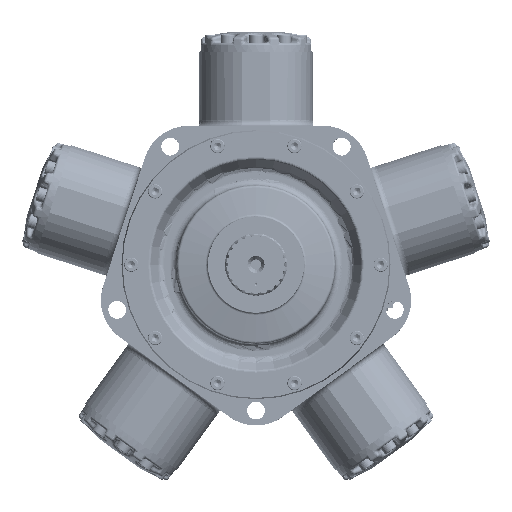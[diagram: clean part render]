
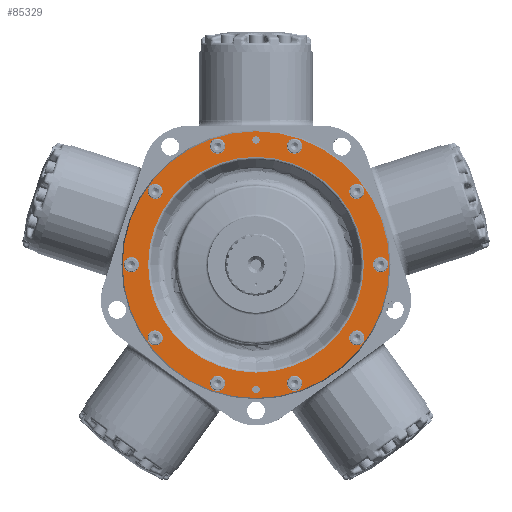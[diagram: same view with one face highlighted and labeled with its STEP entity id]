
A CAD part, top view. The second image highlights one B-rep face of the part: STEP entity #85329.
In plain terms, the highlighted planar face has unit normal (0, 0, 1).
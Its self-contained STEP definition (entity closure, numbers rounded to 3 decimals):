
#3427=FACE_BOUND('',#28082,.T.);
#3428=FACE_BOUND('',#28083,.T.);
#3429=FACE_BOUND('',#28084,.T.);
#3430=FACE_BOUND('',#28085,.T.);
#3431=FACE_BOUND('',#28086,.T.);
#3432=FACE_BOUND('',#28087,.T.);
#3433=FACE_BOUND('',#28088,.T.);
#3434=FACE_BOUND('',#28089,.T.);
#3435=FACE_BOUND('',#28090,.T.);
#3436=FACE_BOUND('',#28091,.T.);
#3437=FACE_BOUND('',#28092,.T.);
#3438=FACE_BOUND('',#28093,.T.);
#3439=FACE_BOUND('',#28094,.T.);
#22422=FACE_OUTER_BOUND('',#28081,.T.);
#28081=EDGE_LOOP('',(#75870));
#28082=EDGE_LOOP('',(#75871));
#28083=EDGE_LOOP('',(#75872));
#28084=EDGE_LOOP('',(#75873));
#28085=EDGE_LOOP('',(#75874));
#28086=EDGE_LOOP('',(#75875));
#28087=EDGE_LOOP('',(#75876));
#28088=EDGE_LOOP('',(#75877));
#28089=EDGE_LOOP('',(#75878));
#28090=EDGE_LOOP('',(#75879));
#28091=EDGE_LOOP('',(#75880));
#28092=EDGE_LOOP('',(#75881));
#28093=EDGE_LOOP('',(#75882));
#28094=EDGE_LOOP('',(#75883));
#31906=CIRCLE('',#92541,120.896);
#31975=CIRCLE('',#92731,149.491);
#31976=CIRCLE('',#92732,4.188);
#31977=CIRCLE('',#92733,4.188);
#31978=CIRCLE('',#92734,8.5);
#31979=CIRCLE('',#92735,8.5);
#31980=CIRCLE('',#92736,8.5);
#31981=CIRCLE('',#92737,8.5);
#31982=CIRCLE('',#92738,8.5);
#31983=CIRCLE('',#92739,8.5);
#31984=CIRCLE('',#92740,8.5);
#31985=CIRCLE('',#92741,8.5);
#31986=CIRCLE('',#92742,8.5);
#31987=CIRCLE('',#92743,8.5);
#38905=VERTEX_POINT('',#205416);
#39357=VERTEX_POINT('',#208858);
#39358=VERTEX_POINT('',#208860);
#39359=VERTEX_POINT('',#208862);
#39360=VERTEX_POINT('',#208864);
#39361=VERTEX_POINT('',#208866);
#39362=VERTEX_POINT('',#208868);
#39363=VERTEX_POINT('',#208870);
#39364=VERTEX_POINT('',#208872);
#39365=VERTEX_POINT('',#208874);
#39366=VERTEX_POINT('',#208876);
#39367=VERTEX_POINT('',#208878);
#39368=VERTEX_POINT('',#208880);
#39369=VERTEX_POINT('',#208882);
#50989=EDGE_CURVE('',#38905,#38905,#31906,.T.);
#51666=EDGE_CURVE('',#39357,#39357,#31975,.T.);
#51667=EDGE_CURVE('',#39358,#39358,#31976,.T.);
#51668=EDGE_CURVE('',#39359,#39359,#31977,.T.);
#51669=EDGE_CURVE('',#39360,#39360,#31978,.T.);
#51670=EDGE_CURVE('',#39361,#39361,#31979,.T.);
#51671=EDGE_CURVE('',#39362,#39362,#31980,.T.);
#51672=EDGE_CURVE('',#39363,#39363,#31981,.T.);
#51673=EDGE_CURVE('',#39364,#39364,#31982,.T.);
#51674=EDGE_CURVE('',#39365,#39365,#31983,.T.);
#51675=EDGE_CURVE('',#39366,#39366,#31984,.T.);
#51676=EDGE_CURVE('',#39367,#39367,#31985,.T.);
#51677=EDGE_CURVE('',#39368,#39368,#31986,.T.);
#51678=EDGE_CURVE('',#39369,#39369,#31987,.T.);
#75870=ORIENTED_EDGE('',*,*,#51666,.F.);
#75871=ORIENTED_EDGE('',*,*,#51667,.T.);
#75872=ORIENTED_EDGE('',*,*,#51668,.T.);
#75873=ORIENTED_EDGE('',*,*,#51669,.T.);
#75874=ORIENTED_EDGE('',*,*,#51670,.T.);
#75875=ORIENTED_EDGE('',*,*,#51671,.T.);
#75876=ORIENTED_EDGE('',*,*,#51672,.T.);
#75877=ORIENTED_EDGE('',*,*,#51673,.T.);
#75878=ORIENTED_EDGE('',*,*,#51674,.T.);
#75879=ORIENTED_EDGE('',*,*,#51675,.T.);
#75880=ORIENTED_EDGE('',*,*,#51676,.T.);
#75881=ORIENTED_EDGE('',*,*,#51677,.T.);
#75882=ORIENTED_EDGE('',*,*,#51678,.T.);
#75883=ORIENTED_EDGE('',*,*,#50989,.T.);
#80404=PLANE('',#92730);
#85329=ADVANCED_FACE('',(#22422,#3427,#3428,#3429,#3430,#3431,#3432,#3433,
#3434,#3435,#3436,#3437,#3438,#3439),#80404,.T.);
#92541=AXIS2_PLACEMENT_3D('',#205417,#110413,#110414);
#92730=AXIS2_PLACEMENT_3D('',#208857,#111076,#111077);
#92731=AXIS2_PLACEMENT_3D('',#208859,#111078,#111079);
#92732=AXIS2_PLACEMENT_3D('',#208861,#111080,#111081);
#92733=AXIS2_PLACEMENT_3D('',#208863,#111082,#111083);
#92734=AXIS2_PLACEMENT_3D('',#208865,#111084,#111085);
#92735=AXIS2_PLACEMENT_3D('',#208867,#111086,#111087);
#92736=AXIS2_PLACEMENT_3D('',#208869,#111088,#111089);
#92737=AXIS2_PLACEMENT_3D('',#208871,#111090,#111091);
#92738=AXIS2_PLACEMENT_3D('',#208873,#111092,#111093);
#92739=AXIS2_PLACEMENT_3D('',#208875,#111094,#111095);
#92740=AXIS2_PLACEMENT_3D('',#208877,#111096,#111097);
#92741=AXIS2_PLACEMENT_3D('',#208879,#111098,#111099);
#92742=AXIS2_PLACEMENT_3D('',#208881,#111100,#111101);
#92743=AXIS2_PLACEMENT_3D('',#208883,#111102,#111103);
#110413=DIRECTION('center_axis',(0.,0.,
-1.));
#110414=DIRECTION('ref_axis',(0.,-1.,0.));
#111076=DIRECTION('center_axis',(0.,0.,
1.));
#111077=DIRECTION('ref_axis',(-1.,0.,0.));
#111078=DIRECTION('center_axis',(0.,0.,
-1.));
#111079=DIRECTION('ref_axis',(0.,1.,0.));
#111080=DIRECTION('center_axis',(0.,0.,
-1.));
#111081=DIRECTION('ref_axis',(-1.,0.,0.));
#111082=DIRECTION('center_axis',(0.,0.,
-1.));
#111083=DIRECTION('ref_axis',(-1.,0.,0.));
#111084=DIRECTION('center_axis',(0.,0.,
-1.));
#111085=DIRECTION('ref_axis',(0.809,-0.588,0.));
#111086=DIRECTION('center_axis',(0.,0.,
-1.));
#111087=DIRECTION('ref_axis',(0.309,-0.951,0.));
#111088=DIRECTION('center_axis',(0.,0.,
-1.));
#111089=DIRECTION('ref_axis',(-0.309,-0.951,0.));
#111090=DIRECTION('center_axis',(0.,0.,
-1.));
#111091=DIRECTION('ref_axis',(-0.809,-0.588,0.));
#111092=DIRECTION('center_axis',(0.,0.,
-1.));
#111093=DIRECTION('ref_axis',(-1.,0.,0.));
#111094=DIRECTION('center_axis',(0.,0.,
-1.));
#111095=DIRECTION('ref_axis',(-0.809,0.588,0.));
#111096=DIRECTION('center_axis',(0.,0.,
-1.));
#111097=DIRECTION('ref_axis',(-0.309,0.951,0.));
#111098=DIRECTION('center_axis',(0.,0.,
-1.));
#111099=DIRECTION('ref_axis',(0.309,0.951,0.));
#111100=DIRECTION('center_axis',(0.,0.,
-1.));
#111101=DIRECTION('ref_axis',(0.809,0.588,0.));
#111102=DIRECTION('center_axis',(0.,0.,
-1.));
#111103=DIRECTION('ref_axis',(1.,0.,0.));
#205416=CARTESIAN_POINT('',(-120.896,0.,85.078));
#205417=CARTESIAN_POINT('Origin',(0.,0.,
85.078));
#208857=CARTESIAN_POINT('Origin',(0.,-135.854,
85.078));
#208858=CARTESIAN_POINT('',(0.,-149.491,85.078));
#208859=CARTESIAN_POINT('Origin',(0.,0.,
85.078));
#208860=CARTESIAN_POINT('',(4.188,-139.7,85.078));
#208861=CARTESIAN_POINT('Origin',(0.,-139.7,85.078));
#208862=CARTESIAN_POINT('',(4.188,139.7,85.078));
#208863=CARTESIAN_POINT('Origin',(0.,139.7,85.078));
#208864=CARTESIAN_POINT('',(-119.896,87.11,85.078));
#208865=CARTESIAN_POINT('Origin',(-113.02,82.114,85.078));
#208866=CARTESIAN_POINT('',(-45.796,140.947,85.078));
#208867=CARTESIAN_POINT('Origin',(-43.17,132.863,85.078));
#208868=CARTESIAN_POINT('',(45.796,140.947,85.078));
#208869=CARTESIAN_POINT('Origin',(43.17,132.863,85.078));
#208870=CARTESIAN_POINT('',(119.896,87.11,85.078));
#208871=CARTESIAN_POINT('Origin',(113.02,82.114,85.078));
#208872=CARTESIAN_POINT('',(148.2,0.,85.078));
#208873=CARTESIAN_POINT('Origin',(139.7,0.,85.078));
#208874=CARTESIAN_POINT('',(119.896,-87.11,85.078));
#208875=CARTESIAN_POINT('Origin',(113.02,-82.114,85.078));
#208876=CARTESIAN_POINT('',(45.796,-140.947,85.078));
#208877=CARTESIAN_POINT('Origin',(43.17,-132.863,85.078));
#208878=CARTESIAN_POINT('',(-45.796,-140.947,85.078));
#208879=CARTESIAN_POINT('Origin',(-43.17,-132.863,85.078));
#208880=CARTESIAN_POINT('',(-119.896,-87.11,85.078));
#208881=CARTESIAN_POINT('Origin',(-113.02,-82.114,85.078));
#208882=CARTESIAN_POINT('',(-148.2,0.,85.078));
#208883=CARTESIAN_POINT('Origin',(-139.7,0.,85.078));
